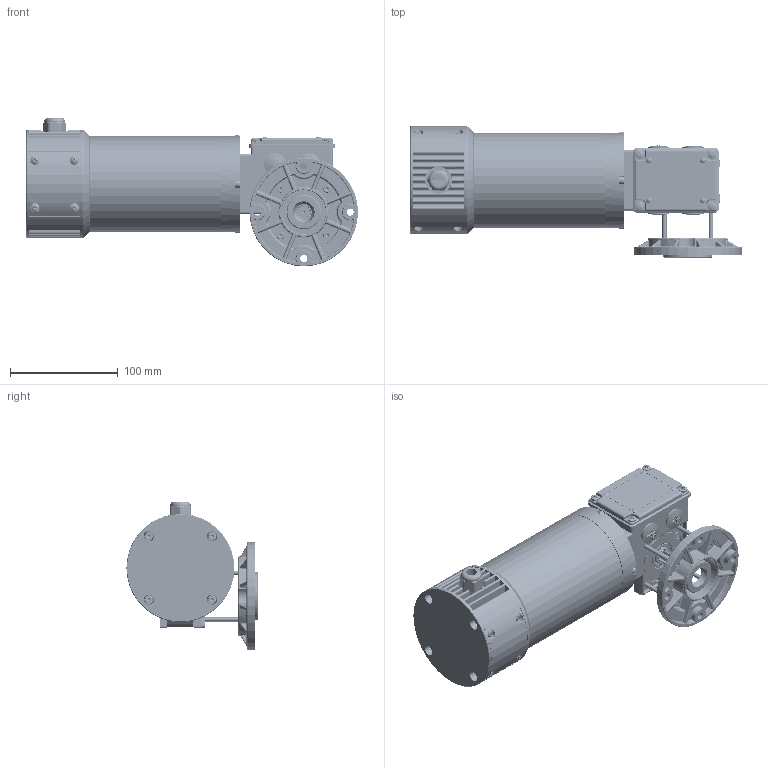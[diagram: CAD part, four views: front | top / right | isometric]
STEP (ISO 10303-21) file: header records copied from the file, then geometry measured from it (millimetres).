
FILE_DESCRIPTION(/* description */ ('ANELLO OR 67.94X2.62 TIPO 32.68 VITON'),/* implementation_level */ '2;1');
FILE_NAME(/* name */ 'C:\Users\giuseppe.caruso.MINIMOTOR\Desktop\MODELLI STP\WEB\MCCE...MP4N B5S.stp',/* time_stamp */ '2014-07-10T11:37:14+02:00',/* author */ ('giuseppe.caruso'),/* organization */ (''),/* preprocessor_version */ 'ST-DEVELOPER v15.6',/* originating_system */ 'Autodesk Inventor 2015',/* authorisation */ '');
FILE_SCHEMA (('AUTOMOTIVE_DESIGN { 1 0 10303 214 3 1 1 }'));
Products named in the file (47): OR001; CRT001-1; CRT001-2; CRT001-3; CRT001-4; CRT001-5; CRT001-6; CRT001; ASF035; VCE445; CHI003; VSE616; VTC408; VCE420; VCE416; SPN018; RIV014I; VTC410S; VCE410; TPP001; BOC001; OR009; ALR050; CRN002; ING278; SRD061; GRN035; CPM005A; TRG001; STT032; MGN001S; MGN001N; STT032C; CPR070; CUF044; CUF051-CSA; CUF055; GRN025; TPP009; FLG042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
Bounding box: 307.65 x 121.5 x 137.75 mm (x, y, z)
Volume: 847784.3 mm3; surface area: 396574.7 mm2
Topology: 89 solids, 91 shells, 4426 faces, 11342 edges, 7140 vertices
Faces by surface type: plane 2145, cylinder 1365, cone 354, torus 309, sphere 150, bspline 103
Full cylindrical faces by diameter (mm): 1.6 x1, 2.459 x1, 2.5 x2, 2.6 x1, 2.7 x8, 3.242 x48, 3.4 x4, 3.8 x4, 4 x52, 4.2 x4, 4.5 x38, 4.917 x1, 5 x4, 5.1 x4, 6 x2, 6.5 x4, 6.561 x1, 7 x23, 7.5 x6, 7.6 x1, 8 x14, 8.5 x8, 10 x1, 11 x5, 11.57 x1, 14.376 x5, 14.38 x1, 15 x1, 16 x5, 17 x4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
Entity records: 96034 total; most frequent: CARTESIAN_POINT 20779, DIRECTION 16047, ORIENTED_EDGE 14658, EDGE_CURVE 7329, AXIS2_PLACEMENT_3D 6012, VERTEX_POINT 4804, LINE 4023, VECTOR 4023
